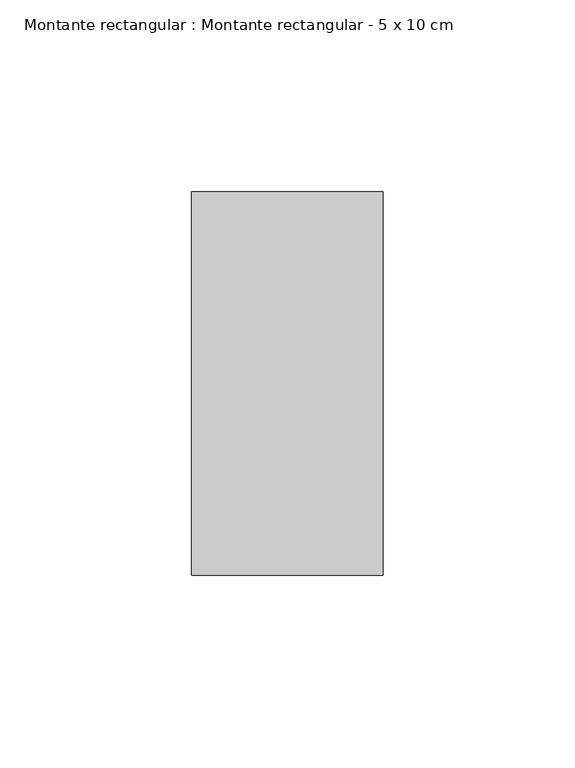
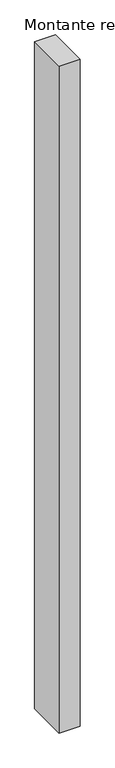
"""IFC4 building model written with IfcOpenShell, lengths in millimetres: member geometry, Montante rectangular : Montante rectangular - 5 x 10 cm."""

import ifcopenshell
import ifcopenshell.guid

model = None  # the IFC model being written
_history = None  # IfcOwnerHistory: only IFC2X3 demands one
_inside = {}  # id of a spatial element -> (the spatial element, [elements in it])
_under = {}  # id of a project, library or spatial element -> (it, [spatial elements below it])
_declared = {}  # id of a project -> (the project, [libraries it declares])
_typed = {}  # id of a type object -> (the type object, [elements of that type])
_made_of = {}  # id of a material, layer set ... -> (it, [elements and type objects made of it])


def new_model(schema):
    """Start an empty IFC model of exactly this schema.

    Asked for "IFC4X3", IfcOpenShell would pick the latest addendum, in which some entities
    have other attributes; the version numbers below select the first issue.
    IFC2X3 requires an IfcOwnerHistory on every rooted entity: one is made here for all.
    """
    global model, _history
    if schema == "IFC4X3":
        model = ifcopenshell.file(schema_version=(4, 3, 0, 0))
    else:
        model = ifcopenshell.file(schema=schema)
    _inside.clear()
    _under.clear()
    _declared.clear()
    _typed.clear()
    _made_of.clear()
    _history = None
    if model.schema == "IFC2X3":
        org = make("IfcOrganization", Name="unknown")
        user = make(
            "IfcPersonAndOrganization",
            ThePerson=make("IfcPerson", FamilyName="unknown"),
            TheOrganization=org,
        )
        app = make(
            "IfcApplication",
            ApplicationDeveloper=org,
            Version="unknown",
            ApplicationFullName="unknown",
            ApplicationIdentifier="unknown",
        )
        _history = make(
            "IfcOwnerHistory",
            OwningUser=user,
            OwningApplication=app,
            ChangeAction="ADDED",
            CreationDate=0,
        )
    return model


def make(cls, **values):
    """One entity of the class cls with the attributes given. An attribute that is None is left unset."""
    return model.create_entity(
        cls, **{name: value for name, value in values.items() if value is not None}
    )


def rooted(cls, **values):
    """An entity with a GlobalId (a new one), such as an element, a storey or a relation."""
    return make(cls, GlobalId=ifcopenshell.guid.new(), OwnerHistory=_history, **values)


def si_unit(unit_type, name, prefix=None):
    """IfcSIUnit, for example si_unit("LENGTHUNIT", "METRE", prefix="MILLI")."""
    return make("IfcSIUnit", UnitType=unit_type, Prefix=prefix, Name=name)


def assignment(units):
    """IfcUnitAssignment: the units of a project."""
    return None if units is None else make("IfcUnitAssignment", Units=units)


def point(xyz):
    """IfcCartesianPoint."""
    return None if xyz is None else make("IfcCartesianPoint", Coordinates=xyz)


def direction(xyz):
    """IfcDirection."""
    return None if xyz is None else make("IfcDirection", DirectionRatios=xyz)


def frame(location, z_axis=None, x_axis=None):
    """IfcAxis2Placement3D, a coordinate frame: its origin and axes. An axis left out is left unset."""
    return make(
        "IfcAxis2Placement3D",
        Location=point(location),
        Axis=direction(z_axis),
        RefDirection=direction(x_axis),
    )


def origin():
    """The frame at (0, 0, 0) with its axes left unset."""
    return frame((0.0, 0.0, 0.0))


def place(relative_to, where):
    """IfcLocalPlacement: puts the frame where relative to a parent placement (None: the world)."""
    return make(
        "IfcLocalPlacement", PlacementRelTo=relative_to, RelativePlacement=where
    )


def context(
    kind, dimensions, precision=None, world=None, true_north=None, identifier=None
):
    """IfcGeometricRepresentationContext, for example the 3D "Model" context."""
    return make(
        "IfcGeometricRepresentationContext",
        ContextIdentifier=identifier,
        ContextType=kind,
        CoordinateSpaceDimension=dimensions,
        Precision=precision,
        WorldCoordinateSystem=world,
        TrueNorth=true_north,
    )


def project(units=None, contexts=None):
    """IfcProject with its units and contexts."""
    return rooted(
        "IfcProject",
        Name="project",
        RepresentationContexts=contexts,
        UnitsInContext=assignment(units),
    )


def spatial(cls, under=None, at=None, **own):
    """A site, building, storey or space (cls), placed at a placement, below another one or the project."""
    s = rooted(cls, ObjectPlacement=at, **own)
    if under is not None:
        _under.setdefault(under.id(), (under, []))[1].append(s)
    return s


def polyline(points):
    """IfcPolyline through the points."""
    return make("IfcPolyline", Points=[point(p) for p in points])


def outline(outer, holes=None, kind="AREA"):
    """IfcArbitraryClosedProfileDef: a profile drawn as a closed curve; with holes, ...WithVoids."""
    if holes is None:
        return make("IfcArbitraryClosedProfileDef", ProfileType=kind, OuterCurve=outer)
    return make(
        "IfcArbitraryProfileDefWithVoids",
        ProfileType=kind,
        OuterCurve=outer,
        InnerCurves=holes,
    )


def extrude(swept, where, along, depth):
    """IfcExtrudedAreaSolid: the profile swept, set in the frame where, extruded along a direction by depth."""
    return make(
        "IfcExtrudedAreaSolid",
        SweptArea=swept,
        Position=where,
        ExtrudedDirection=direction(along),
        Depth=depth,
    )


def shape(context_of_items, identifier, shape_type, items):
    """IfcShapeRepresentation: the items that make up one representation, for example the "Body"."""
    return make(
        "IfcShapeRepresentation",
        ContextOfItems=context_of_items,
        RepresentationIdentifier=identifier,
        RepresentationType=shape_type,
        Items=items,
    )


def source(mapping_origin, context_of_items, identifier, shape_type, items):
    """IfcRepresentationMap: a shape defined once, which mapped items show again and again."""
    return make(
        "IfcRepresentationMap",
        MappingOrigin=mapping_origin,
        MappedRepresentation=shape(context_of_items, identifier, shape_type, items),
    )


def transform(
    local_origin,
    x_axis=None,
    y_axis=None,
    z_axis=None,
    scale=None,
    scale2=None,
    scale3=None,
    uniform=True,
):
    """IfcCartesianTransformationOperator3D, or its non-uniform kind. x_axis, y_axis, z_axis: its Axis1, 2, 3."""
    if uniform:
        return make(
            "IfcCartesianTransformationOperator3D",
            Axis1=direction(x_axis),
            Axis2=direction(y_axis),
            LocalOrigin=point(local_origin),
            Scale=scale,
            Axis3=direction(z_axis),
        )
    return make(
        "IfcCartesianTransformationOperator3DnonUniform",
        Axis1=direction(x_axis),
        Axis2=direction(y_axis),
        LocalOrigin=point(local_origin),
        Scale=scale,
        Axis3=direction(z_axis),
        Scale2=scale2,
        Scale3=scale3,
    )


def mapped(mapping_source, mapping_target):
    """IfcMappedItem: shows the shape of a source again, moved by a transform."""
    return make(
        "IfcMappedItem", MappingSource=mapping_source, MappingTarget=mapping_target
    )


def made_of(thing, what):
    """Note that an element or type object is made of a material, layer set ...; save() writes the relation."""
    if what is not None:
        _made_of.setdefault(what.id(), (what, []))[1].append(thing)
    return thing


def element(
    cls,
    number,
    at=None,
    inside=None,
    cuts=None,
    type_object=None,
    material=None,
    context=None,
    identifier="Body",
    shape_type=None,
    held_by="IfcProductDefinitionShape",
    body=None,
    shapes=None,
    **own,
):
    """One element of the class cls, such as IfcWall. Its Tag is "e" and its number.

    at: its placement. inside: the storey or other place that contains it. cuts: it is an
    opening in that element (IfcRelVoidsElement). A single representation is given by context,
    identifier, shape_type and body (its items); several are given by shapes. held_by: the class
    of the entity that holds the representations. save() writes the other relations.
    """
    e = rooted(cls, Tag="e%d" % number, ObjectPlacement=at, **own)
    if body is not None:
        shapes = [shape(context, identifier, shape_type, body)]
    if shapes is not None:
        e.Representation = make(held_by, Representations=shapes)
    if inside is not None:
        _inside.setdefault(inside.id(), (inside, []))[1].append(e)
    if cuts is not None:
        rooted(
            "IfcRelVoidsElement", RelatingBuildingElement=cuts, RelatedOpeningElement=e
        )
    if type_object is not None:
        _typed.setdefault(type_object.id(), (type_object, []))[1].append(e)
    return made_of(e, material)


def aggregate(whole, parts):
    """IfcRelAggregates: a whole, such as a stair, and the parts it consists of."""
    return rooted("IfcRelAggregates", RelatingObject=whole, RelatedObjects=parts)


def save(model, path):
    """Write the relations noted so far, then the file.

    IfcRelAggregates (storeys below a building ...), IfcRelContainedInSpatialStructure (elements
    in a storey), IfcRelDefinesByType, IfcRelAssociatesMaterial and IfcRelDeclares: one each for
    every whole, place, type object, material and project.
    """
    for whole, parts in _under.values():
        aggregate(whole, parts)
    for where, things in _inside.values():
        rooted(
            "IfcRelContainedInSpatialStructure",
            RelatedElements=things,
            RelatingStructure=where,
        )
    for kind, things in _typed.values():
        rooted("IfcRelDefinesByType", RelatedObjects=things, RelatingType=kind)
    for what, things in _made_of.values():
        rooted("IfcRelAssociatesMaterial", RelatedObjects=things, RelatingMaterial=what)
    for by, libraries in _declared.values():
        rooted("IfcRelDeclares", RelatingContext=by, RelatedDefinitions=libraries)
    model.write(path)


def montante_rectangular_montante_rectangular_5_x_10_cm_635d8396(model_context):
    return source(origin(), model_context, "Body", "SweptSolid", [
        extrude(outline(polyline([(0.0, 50.0), (0.0, -50.0), (-50.0, -50.0), (-50.0, 50.0), (0.0, 50.0)])), frame((0.0, 0.0, -1675.0), z_axis=(0.0, 0.0, 1.0), x_axis=(1.0, 0.0, 0.0)), (0.0, 0.0, 1.0), 1675.0),
    ])


if __name__ == "__main__":
    model = new_model("IFC4")
    model_context = context("Model", 3, world=origin())
    ifc_project = project(units=[si_unit("LENGTHUNIT", "METRE", prefix="MILLI")], contexts=[model_context])
    site = spatial("IfcSite", under=ifc_project)
    building = spatial("IfcBuilding", under=site)
    placement = place(None, origin())
    montante_rectangular_montante_rectangular_5_x_10_cm_shape = montante_rectangular_montante_rectangular_5_x_10_cm_635d8396(model_context)
    element("IfcMember", 1, ObjectType="Montante rectangular : Montante rectangular - 5 x 10 cm", at=placement, inside=building, context=model_context, shape_type="MappedRepresentation", body=[
        mapped(montante_rectangular_montante_rectangular_5_x_10_cm_shape, transform((0.0, 0.0, 0.0), x_axis=(1.0, 0.0, 0.0), y_axis=(0.0, 1.0, 0.0), z_axis=(0.0, 0.0, 1.0))),
    ])
    save(model, "model.ifc")
